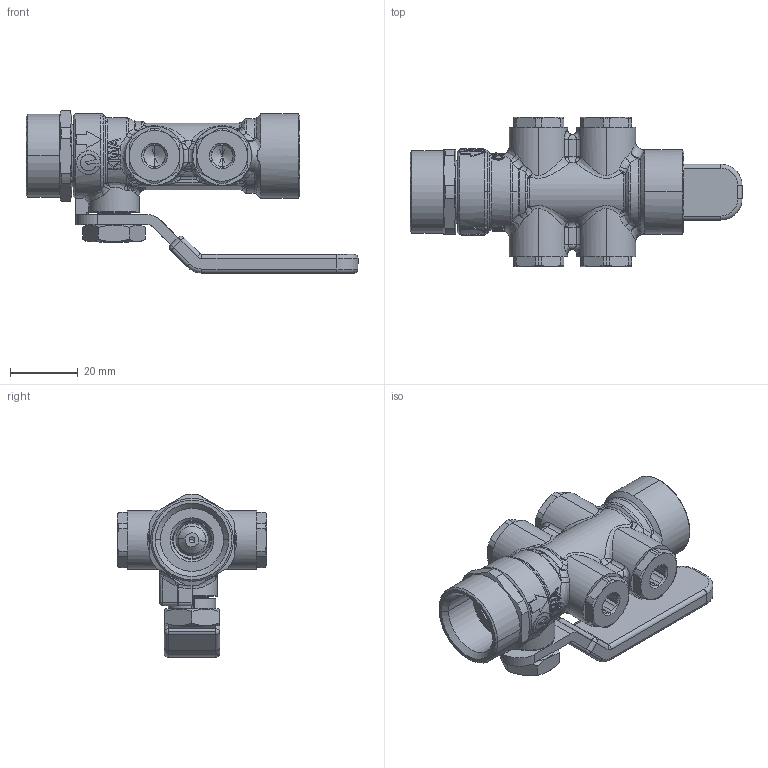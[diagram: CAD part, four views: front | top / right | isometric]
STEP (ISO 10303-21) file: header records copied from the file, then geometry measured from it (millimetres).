
FILE_DESCRIPTION (( 'STEP AP214' ), '1' );
FILE_NAME ('W228015243.STEP', '2018-09-17T06:57:19', ( '' ), ( '' ), 'SwSTEP 2.0', 'SolidWorks 2017', '' );
FILE_SCHEMA (( 'AUTOMOTIVE_DESIGN' ));
Length unit declared in the file: millimetre
Products named in the file (18): W228015243; W098010203_00A; 22102343_Torpedo; W092015310_01A; W098015211_00A_P627 4 pour 20 et 25; 22102343_Membrane; W022015070JT12x1.5; W022014070; W034015500_04A_W034015510UsFdemi; W098015209_W098015212_PerceeEnrobee; 22102343_Valve; W098010200_01A; 9696; 10088; 22102343_Ressort; W149015618_closed; W093003102_00A; 2224003_house
Assembly tree (24 placements, depth 3):
  W228015243
    W034015500_04A_W034015510UsFdemi
    W098015211_00A_P627 4 pour 20 et 25
    W098015209_W098015212_PerceeEnrobee
    9696
    10088
    W092015310_01A
    W098010200_01A
    W098010203_00A  x2
    W149015618_closed
      22102343_Membrane
      22102343_Torpedo
      22102343_Ressort
      22102343_Valve
      2224003_house
    W022015070JT12x1.5
    W093003102_00A  x4
    W022014070  x4
Bounding box: 98.15 x 44.2 x 48.34 mm (x, y, z)
Volume: 39984.2 mm3; surface area: 33059.8 mm2
Topology: 24 solids, 24 shells, 1293 faces, 3230 edges, 1973 vertices
Faces by surface type: plane 474, cylinder 310, bspline 205, cone 199, torus 95, sphere 10
Entity records: 45979 total; most frequent: CARTESIAN_POINT 20328, ORIENTED_EDGE 5456, DIRECTION 4752, EDGE_CURVE 2728, AXIS2_PLACEMENT_3D 1882, VERTEX_POINT 1683, EDGE_LOOP 1171, ADVANCED_FACE 1104
